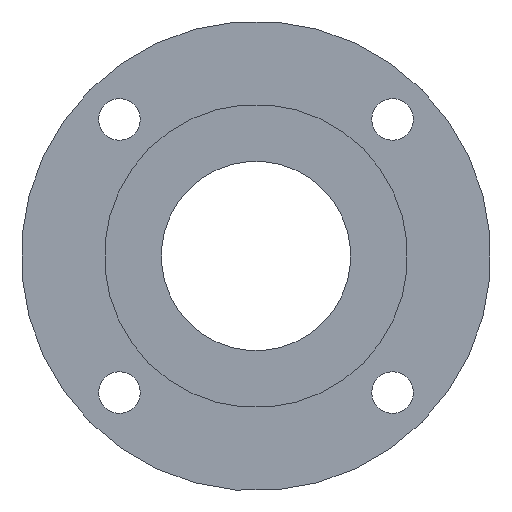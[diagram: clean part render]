
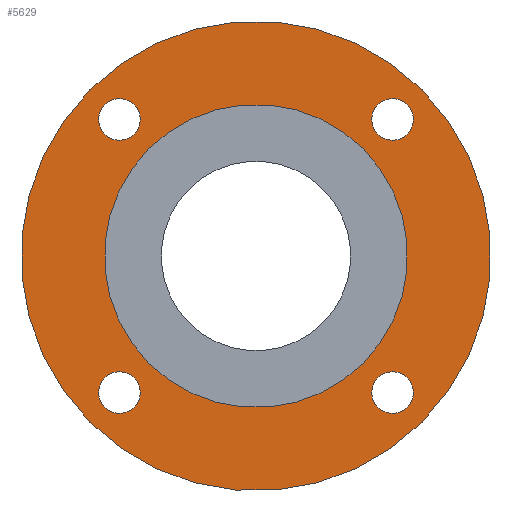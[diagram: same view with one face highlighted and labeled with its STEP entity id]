
A CAD part, left-side view. The second image highlights one B-rep face of the part: STEP entity #5629.
In plain terms, the highlighted planar face has unit normal (-1, 0, 0).
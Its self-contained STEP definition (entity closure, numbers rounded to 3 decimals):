
#109=CIRCLE('',#5985,20.);
#111=CIRCLE('',#5990,2.75);
#112=CIRCLE('',#5991,2.75);
#113=CIRCLE('',#5992,2.75);
#114=CIRCLE('',#5993,2.75);
#115=CIRCLE('',#5994,31.);
#1725=ORIENTED_EDGE('',*,*,#3348,.T.);
#1726=ORIENTED_EDGE('',*,*,#3349,.T.);
#1727=ORIENTED_EDGE('',*,*,#3350,.T.);
#1728=ORIENTED_EDGE('',*,*,#3351,.T.);
#1729=ORIENTED_EDGE('',*,*,#3352,.F.);
#1730=ORIENTED_EDGE('',*,*,#3346,.T.);
#3346=EDGE_CURVE('',#4159,#4159,#109,.T.);
#3348=EDGE_CURVE('',#4161,#4161,#111,.T.);
#3349=EDGE_CURVE('',#4162,#4162,#112,.T.);
#3350=EDGE_CURVE('',#4163,#4163,#113,.T.);
#3351=EDGE_CURVE('',#4164,#4164,#114,.T.);
#3352=EDGE_CURVE('',#4165,#4165,#115,.T.);
#4159=VERTEX_POINT('',#8924);
#4161=VERTEX_POINT('',#8931);
#4162=VERTEX_POINT('',#8933);
#4163=VERTEX_POINT('',#8935);
#4164=VERTEX_POINT('',#8937);
#4165=VERTEX_POINT('',#8939);
#4621=EDGE_LOOP('',(#1725));
#4622=EDGE_LOOP('',(#1726));
#4623=EDGE_LOOP('',(#1727));
#4624=EDGE_LOOP('',(#1728));
#4625=EDGE_LOOP('',(#1729));
#4626=EDGE_LOOP('',(#1730));
#5022=FACE_BOUND('',#4621,.T.);
#5023=FACE_BOUND('',#4622,.T.);
#5024=FACE_BOUND('',#4623,.T.);
#5025=FACE_BOUND('',#4624,.T.);
#5026=FACE_BOUND('',#4625,.T.);
#5027=FACE_BOUND('',#4626,.T.);
#5371=PLANE('',#5989);
#5629=ADVANCED_FACE('',(#5022,#5023,#5024,#5025,#5026,#5027),#5371,.F.);
#5985=AXIS2_PLACEMENT_3D('',#8923,#6503,#6504);
#5989=AXIS2_PLACEMENT_3D('',#8929,#6511,#6512);
#5990=AXIS2_PLACEMENT_3D('',#8930,#6513,#6514);
#5991=AXIS2_PLACEMENT_3D('',#8932,#6515,#6516);
#5992=AXIS2_PLACEMENT_3D('',#8934,#6517,#6518);
#5993=AXIS2_PLACEMENT_3D('',#8936,#6519,#6520);
#5994=AXIS2_PLACEMENT_3D('',#8938,#6521,#6522);
#6503=DIRECTION('',(1.,0.,0.));
#6504=DIRECTION('',(0.,0.707,-0.707));
#6511=DIRECTION('',(1.,0.,0.));
#6512=DIRECTION('',(0.,0.707,-0.707));
#6513=DIRECTION('',(1.,0.,0.));
#6514=DIRECTION('',(0.,0.707,-0.707));
#6515=DIRECTION('',(1.,0.,0.));
#6516=DIRECTION('',(0.,0.707,-0.707));
#6517=DIRECTION('',(1.,0.,0.));
#6518=DIRECTION('',(0.,0.707,-0.707));
#6519=DIRECTION('',(1.,0.,0.));
#6520=DIRECTION('',(0.,0.707,-0.707));
#6521=DIRECTION('',(1.,0.,0.));
#6522=DIRECTION('',(0.,0.707,-0.707));
#8923=CARTESIAN_POINT('',(48.,0.,0.));
#8924=CARTESIAN_POINT('',(48.,14.142,-14.142));
#8929=CARTESIAN_POINT('',(48.,0.,0.));
#8930=CARTESIAN_POINT('',(48.,18.031,-18.031));
#8931=CARTESIAN_POINT('',(48.,19.976,-19.976));
#8932=CARTESIAN_POINT('',(48.,-18.031,-18.031));
#8933=CARTESIAN_POINT('',(48.,-16.087,-19.976));
#8934=CARTESIAN_POINT('',(48.,-18.031,18.031));
#8935=CARTESIAN_POINT('',(48.,-16.087,16.087));
#8936=CARTESIAN_POINT('',(48.,18.031,18.031));
#8937=CARTESIAN_POINT('',(48.,19.976,16.087));
#8938=CARTESIAN_POINT('',(48.,0.,0.));
#8939=CARTESIAN_POINT('',(48.,21.92,-21.92));
